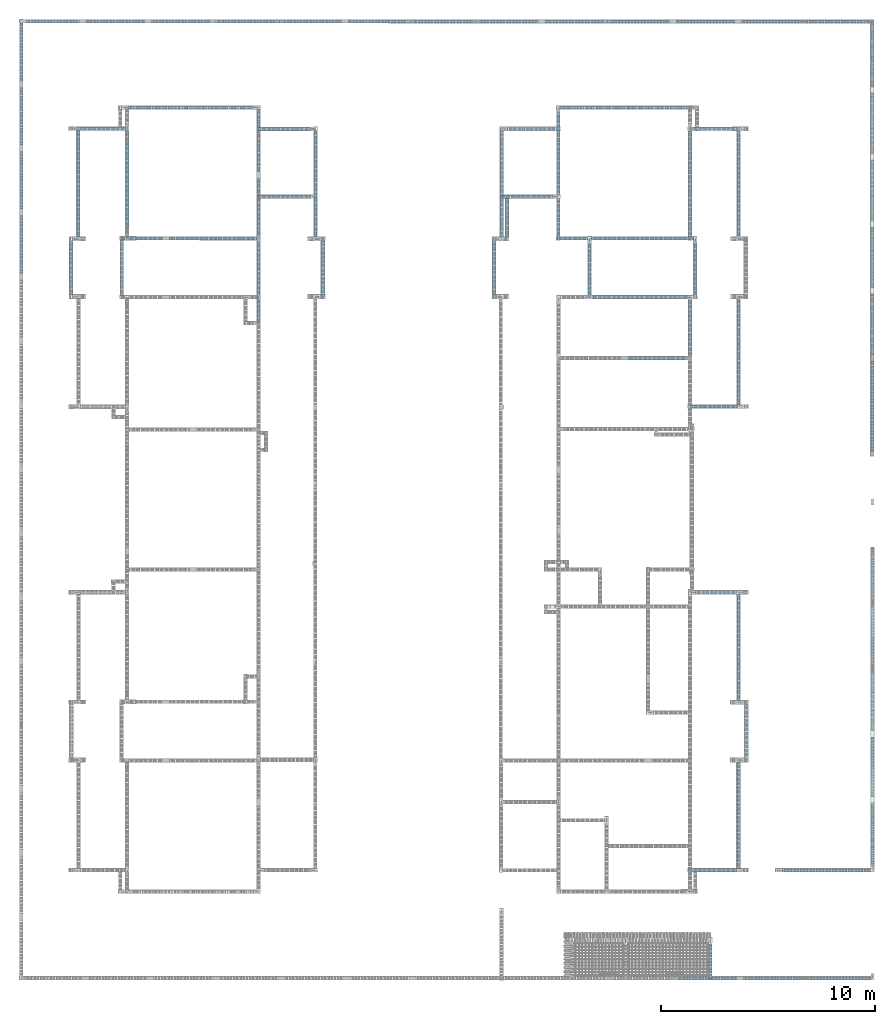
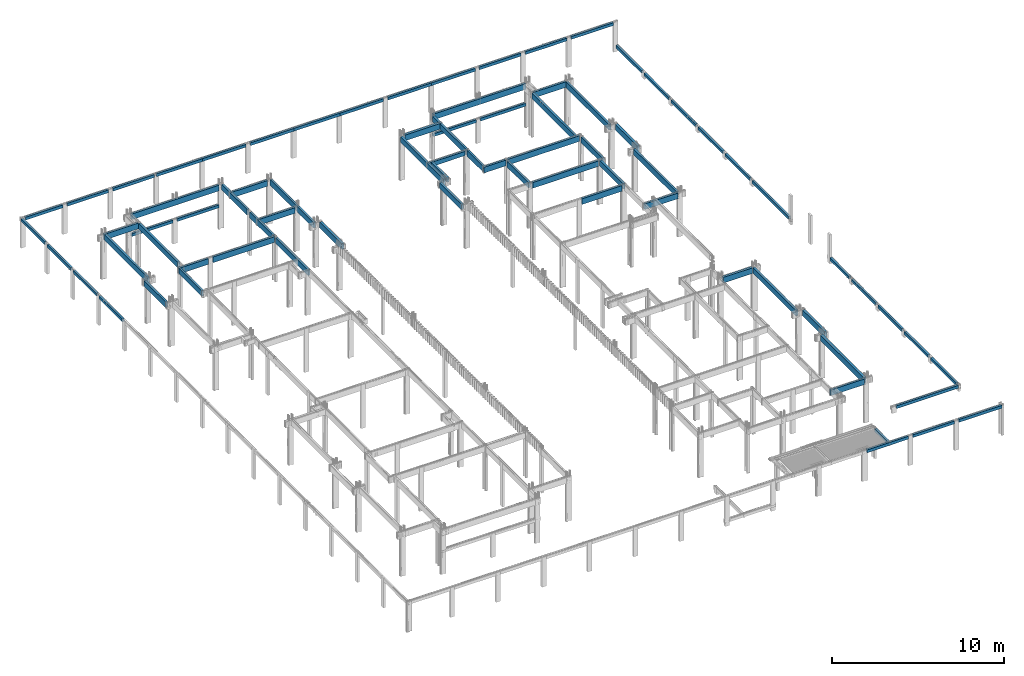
# One storey, part 4 of 236: 79 beams.
"""IFC4 building model written with IfcOpenShell, lengths in centimetres."""

from ifc_helpers import new_model, si_unit, derived_unit, frame, origin_with_axes, origin_2d_with_axis, place, context, project, spatial, rectangle, extrude, material, element, save


model = new_model("IFC4")

# Units and contexts
model_context = context("Model", 3, precision=1e-05, world=origin_with_axes(), identifier="Body")
ifc_project = project(units=[si_unit("LENGTHUNIT", "METRE", prefix="CENTI"), si_unit("VOLUMEUNIT", "CUBIC_METRE"), si_unit("AREAUNIT", "SQUARE_METRE"), si_unit("POWERUNIT", "WATT"), si_unit("LUMINOUSFLUXUNIT", "LUMEN"), si_unit("ELECTRICCURRENTUNIT", "AMPERE"), si_unit("PRESSUREUNIT", "PASCAL", prefix="KILO"), si_unit("MASSUNIT", "GRAM", prefix="KILO"), si_unit("PLANEANGLEUNIT", "RADIAN"), derived_unit("VOLUMETRICFLOWRATEUNIT", [(si_unit("LENGTHUNIT", "METRE"), 3), (si_unit("TIMEUNIT", "SECOND"), -1)])], contexts=[model_context])

# Site, building, storey
site_placement = place(None, frame((-4000.0, 0.0, 0.0), z_axis=(0.0, 0.0, 1.0), x_axis=(1.0, 0.0, 0.0)))
site = spatial("IfcSite", under=ifc_project, at=site_placement, Name="PADRÃO")
building_placement = place(site_placement, frame((0.0, 0.0, -14.0)))
building = spatial("IfcBuilding", under=site, at=building_placement, Name="CRECHE PRÉ-ESCOLA TIPO 2")
placement_1 = place(building_placement, origin_with_axes())
placement_2 = place(placement_1, frame((0.0, 0.0, 30.0), z_axis=(0.0, 0.0, 1.0), x_axis=(1.0, 0.0, 0.0)))
storey_placement = place(placement_2, frame((0.0, 0.0, 310.0), z_axis=(0.0, 0.0, 1.0), x_axis=(1.0, 0.0, 0.0)))
storey = spatial("IfcBuildingStorey", under=building, at=storey_placement, Name="TERREO", CompositionType="ELEMENT", Elevation=326.0)

# Beams
ifc_material = material(Name="Concreto")
beam_1_placement = place(storey_placement, frame((802.19, 4085.0, 0.0), z_axis=(0.0, 0.0, 1.0), x_axis=(1.0, 0.0, 0.0)))
element("IfcBeam", 1, at=beam_1_placement, inside=storey, material=ifc_material, Name="V201", context=model_context, shape_type="SolidModel", body=[
    extrude(rectangle(XDim=14.0, YDim=40.0, at=origin_2d_with_axis()), frame((-292.52, 0.0, -20.0), z_axis=(1.0, 0.0, 0.0), x_axis=(0.0, 1.0, 0.0)), (0.0, 0.0, 1.0), 585.04),
])
beam_2_placement = place(storey_placement, frame((2839.0, 4085.02, 0.0), z_axis=(0.0, 0.0, 1.0), x_axis=(1.0, 0.0, 0.0)))
element("IfcBeam", 2, at=beam_2_placement, inside=storey, material=ifc_material, Name="V202", context=model_context, shape_type="SolidModel", body=[
    extrude(rectangle(XDim=14.0, YDim=40.0, at=origin_2d_with_axis()), frame((-309.5, 0.0, -20.0), z_axis=(1.0, 0.0, 0.0), x_axis=(0.0, 1.0, 0.0)), (0.0, 0.0, 1.0), 619.0),
])
beam_3_placement = place(storey_placement, frame((381.835, 3986.0, 0.0), z_axis=(0.0, 0.0, 1.0), x_axis=(1.0, 0.0, 0.0)))
element("IfcBeam", 3, at=beam_3_placement, inside=storey, material=ifc_material, Name="V203", context=model_context, shape_type="SolidModel", body=[
    extrude(rectangle(XDim=14.0, YDim=40.0, at=origin_2d_with_axis()), frame((-114.835, 0.0, -20.0), z_axis=(1.0, 0.0, 0.0), x_axis=(0.0, 1.0, 0.0)), (0.0, 0.0, 1.0), 229.67),
])
beam_4_placement = place(storey_placement, frame((1240.28, 3985.0, 0.0), z_axis=(0.0, 0.0, 1.0), x_axis=(1.0, 0.0, 0.0)))
element("IfcBeam", 4, at=beam_4_placement, inside=storey, material=ifc_material, Name="V204", context=model_context, shape_type="SolidModel", body=[
    extrude(rectangle(XDim=14.0, YDim=40.0, at=origin_2d_with_axis()), frame((-121.56, 0.0, -20.0), z_axis=(1.0, 0.0, 0.0), x_axis=(0.0, 1.0, 0.0)), (0.0, 0.0, 1.0), 243.12),
])
beam_5_placement = place(storey_placement, frame((2405.63, 3985.0, 0.0), z_axis=(0.0, 0.0, 1.0), x_axis=(1.0, 0.0, 0.0)))
element("IfcBeam", 5, at=beam_5_placement, inside=storey, material=ifc_material, Name="V205", context=model_context, shape_type="SolidModel", body=[
    extrude(rectangle(XDim=17.0, YDim=40.0, at=origin_2d_with_axis()), frame((-123.87, 0.0, -20.0), z_axis=(1.0, 0.0, 0.0), x_axis=(0.0, 1.0, 0.0)), (0.0, 0.0, 1.0), 247.74),
])
beam_6_placement = place(storey_placement, frame((3252.75, 3985.01, 0.0), z_axis=(0.0, 0.0, 1.0), x_axis=(1.0, 0.0, 0.0)))
element("IfcBeam", 6, at=beam_6_placement, inside=storey, material=ifc_material, Name="V206", context=model_context, shape_type="SolidModel", body=[
    extrude(rectangle(XDim=14.0, YDim=40.0, at=origin_2d_with_axis()), frame((-107.25, 0.0, -20.0), z_axis=(1.0, 0.0, 0.0), x_axis=(0.0, 1.0, 0.0)), (0.0, 0.0, 1.0), 214.5),
])
beam_7_placement = place(storey_placement, frame((1240.28, 3667.57, 0.0), z_axis=(0.0, 0.0, 1.0), x_axis=(1.0, 0.0, 0.0)))
element("IfcBeam", 7, at=beam_7_placement, inside=storey, material=ifc_material, Name="V207", context=model_context, shape_type="SolidModel", body=[
    extrude(rectangle(XDim=14.0, YDim=40.0, at=origin_2d_with_axis()), frame((-121.56, 0.0, -20.0), z_axis=(1.0, 0.0, 0.0), x_axis=(0.0, 1.0, 0.0)), (0.0, 0.0, 1.0), 243.12),
])
beam_8_placement = place(storey_placement, frame((2378.63, 3667.75, 0.0), z_axis=(0.0, 0.0, 1.0), x_axis=(1.0, 0.0, 0.0)))
element("IfcBeam", 8, at=beam_8_placement, inside=storey, material=ifc_material, Name="V208", context=model_context, shape_type="SolidModel", body=[
    extrude(rectangle(XDim=14.0, YDim=30.0, at=origin_2d_with_axis()), frame((-120.87, 0.0, -15.0), z_axis=(1.0, 0.0, 0.0), x_axis=(0.0, 1.0, 0.0)), (0.0, 0.0, 1.0), 241.74),
])
beam_9_placement = place(storey_placement, frame((571.09481657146, 3472.49518343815, 0.0), z_axis=(0.0, 0.0, 1.0), x_axis=(1.0, 0.0, 0.0)))
element("IfcBeam", 9, at=beam_9_placement, inside=storey, material=ifc_material, Name="V210", context=model_context, shape_type="SolidModel", body=[
    extrude(rectangle(XDim=14.0, YDim=40.0, at=origin_2d_with_axis()), frame((-98.9051834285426, 0.00518343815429, -20.0), z_axis=(1.0, -5.2408154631e-05, 0.0), x_axis=(5.2408154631e-05, 1.0, 0.0)), (0.0, 0.0, 1.0), 197.81036712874),
])
beam_10_placement = place(storey_placement, frame((905.86, 3472.495, 0.0), z_axis=(0.0, 0.0, 1.0), x_axis=(1.0, 0.0, 0.0)))
element("IfcBeam", 10, at=beam_10_placement, inside=storey, material=ifc_material, Name="V210", context=model_context, shape_type="SolidModel", body=[
    extrude(rectangle(XDim=14.0, YDim=40.0, at=origin_2d_with_axis()), frame((-205.86, -0.005, -20.0), z_axis=(1.0, 2.42883513e-05, 0.0), x_axis=(-2.42883513e-05, 1.0, 0.0)), (0.0, 0.0, 1.0), 411.720000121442),
])
beam_11_placement = place(storey_placement, frame((2915.75, 3472.58, 0.0), z_axis=(0.0, 0.0, 1.0), x_axis=(1.0, 0.0, 0.0)))
element("IfcBeam", 11, at=beam_11_placement, inside=storey, material=ifc_material, Name="V213", context=model_context, shape_type="SolidModel", body=[
    extrude(rectangle(XDim=14.0, YDim=40.0, at=origin_2d_with_axis()), frame((-240.75, 0.0, -20.0), z_axis=(1.0, 0.0, 0.0), x_axis=(0.0, 1.0, 0.0)), (0.0, 0.0, 1.0), 481.5),
])
beam_12_placement = place(storey_placement, frame((2588.25, 3472.58, 0.0), z_axis=(0.0, 0.0, 1.0), x_axis=(1.0, 0.0, 0.0)))
element("IfcBeam", 12, at=beam_12_placement, inside=storey, material=ifc_material, Name="V213", context=model_context, shape_type="SolidModel", body=[
    extrude(rectangle(XDim=14.0, YDim=40.0, at=origin_2d_with_axis()), frame((-72.75, 0.0, -20.0), z_axis=(1.0, 0.0, 0.0), x_axis=(0.0, 1.0, 0.0)), (0.0, 0.0, 1.0), 145.5),
])
beam_13_placement = place(storey_placement, frame((2903.25, 3197.52, 0.0), z_axis=(0.0, 0.0, 1.0), x_axis=(1.0, 0.0, 0.0)))
element("IfcBeam", 13, at=beam_13_placement, inside=storey, material=ifc_material, Name="V219", context=model_context, shape_type="SolidModel", body=[
    extrude(rectangle(XDim=14.0, YDim=40.0, at=origin_2d_with_axis()), frame((-220.25, 0.0, -20.0), z_axis=(1.0, 0.0, 0.0), x_axis=(0.0, 1.0, 0.0)), (0.0, 0.0, 1.0), 440.5),
])
beam_14_placement = place(storey_placement, frame((2982.25, 2912.52, 0.0), z_axis=(0.0, 0.0, 1.0), x_axis=(1.0, 0.0, 0.0)))
element("IfcBeam", 14, at=beam_14_placement, inside=storey, material=ifc_material, Name="V222", context=model_context, shape_type="SolidModel", body=[
    extrude(rectangle(XDim=14.0, YDim=40.0, at=origin_2d_with_axis()), frame((-133.25, 0.0, -20.0), z_axis=(1.0, 0.0, 0.0), x_axis=(0.0, 1.0, 0.0)), (0.0, 0.0, 1.0), 266.5),
])
beam_15_placement = place(storey_placement, frame((3249.75, 2685.01, 0.0), z_axis=(0.0, 0.0, 1.0), x_axis=(1.0, 0.0, 0.0)))
element("IfcBeam", 15, at=beam_15_placement, inside=storey, material=ifc_material, Name="V225", context=model_context, shape_type="SolidModel", body=[
    extrude(rectangle(XDim=14.0, YDim=40.0, at=origin_2d_with_axis()), frame((-111.25, 0.0, -20.0), z_axis=(1.0, 0.0, 0.0), x_axis=(0.0, 1.0, 0.0)), (0.0, 0.0, 1.0), 222.5),
])
beam_16_placement = place(storey_placement, frame((3260.0, 1815.02, 0.0), z_axis=(0.0, 0.0, 1.0), x_axis=(1.0, 0.0, 0.0)))
element("IfcBeam", 16, at=beam_16_placement, inside=storey, material=ifc_material, Name="V237", context=model_context, shape_type="SolidModel", body=[
    extrude(rectangle(XDim=17.0, YDim=40.0, at=origin_2d_with_axis()), frame((-97.5, 0.0, -20.0), z_axis=(1.0, 0.0, 0.0), x_axis=(0.0, 1.0, 0.0)), (0.0, 0.0, 1.0), 195.0),
])
beam_17_placement = place(storey_placement, frame((3244.5, 515.01, 0.0), z_axis=(0.0, 0.0, 1.0), x_axis=(1.0, 0.0, 0.0)))
element("IfcBeam", 17, at=beam_17_placement, inside=storey, material=ifc_material, Name="V256", context=model_context, shape_type="SolidModel", body=[
    extrude(rectangle(XDim=14.0, YDim=40.0, at=origin_2d_with_axis()), frame((-113.0, 0.0, -20.0), z_axis=(1.0, 0.0, 0.0), x_axis=(0.0, 1.0, 0.0)), (0.0, 0.0, 1.0), 226.0),
])
beam_18_placement = place(storey_placement, frame((241.37, 3335.25, 0.0), z_axis=(0.0, 0.0, 1.0), x_axis=(1.0, 0.0, 0.0)))
element("IfcBeam", 18, at=beam_18_placement, inside=storey, material=ifc_material, Name="V263", context=model_context, shape_type="SolidModel", body=[
    extrude(rectangle(XDim=14.0, YDim=40.0, at=origin_2d_with_axis()), frame((0.0, -126.25, -20.0), z_axis=(0.0, 1.0, 0.0), x_axis=(-1.0, 0.0, 0.0)), (0.0, 0.0, 1.0), 252.5),
])
beam_19_placement = place(storey_placement, frame((275.01, 3728.25, 0.0), z_axis=(0.0, 0.0, 1.0), x_axis=(1.0, 0.0, 0.0)))
element("IfcBeam", 19, at=beam_19_placement, inside=storey, material=ifc_material, Name="V264", context=model_context, shape_type="SolidModel", body=[
    extrude(rectangle(XDim=14.0, YDim=40.0, at=origin_2d_with_axis()), frame((0.01, -249.75, -20.0), z_axis=(-4.0040040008e-05, 1.0, 0.0), x_axis=(-1.0, -4.0040040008e-05, 0.0)), (0.0, 0.0, 1.0), 499.5),
])
beam_20_placement = place(storey_placement, frame((479.19, 3334.99643003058, 0.0), z_axis=(0.0, 0.0, 1.0), x_axis=(1.0, 0.0, 0.0)))
element("IfcBeam", 20, at=beam_20_placement, inside=storey, material=ifc_material, Name="V271", context=model_context, shape_type="SolidModel", body=[
    extrude(rectangle(XDim=14.0, YDim=40.0, at=origin_2d_with_axis()), frame((0.0, -130.506430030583, -20.0), z_axis=(0.0, 1.0, 0.0), x_axis=(-1.0, 0.0, 0.0)), (0.0, 0.0, 1.0), 261.012860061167),
])
beam_21_placement = place(storey_placement, frame((503.675, 3750.0, 0.0), z_axis=(0.0, 0.0, 1.0), x_axis=(1.0, 0.0, 0.0)))
element("IfcBeam", 21, at=beam_21_placement, inside=storey, material=ifc_material, Name="V272", context=model_context, shape_type="SolidModel", body=[
    extrude(rectangle(XDim=14.0, YDim=40.0, at=origin_2d_with_axis()), frame((-0.015, -226.5, -20.0), z_axis=(6.6225165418e-05, 1.0, 0.0), x_axis=(-1.0, 6.6225165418e-05, 0.0)), (0.0, 0.0, 1.0), 453.0),
])
beam_22_placement = place(storey_placement, frame((1118.72, 3265.75, 0.0), z_axis=(0.0, 0.0, 1.0), x_axis=(1.0, 0.0, 0.0)))
element("IfcBeam", 22, at=beam_22_placement, inside=storey, material=ifc_material, Name="V278", context=model_context, shape_type="SolidModel", body=[
    extrude(rectangle(XDim=14.0, YDim=40.0, at=origin_2d_with_axis()), frame((0.0, -189.25, -20.0), z_axis=(0.0, 1.0, 0.0), x_axis=(-1.0, 0.0, 0.0)), (0.0, 0.0, 1.0), 378.5),
])
beam_23_placement = place(storey_placement, frame((1118.715, 3930.39, 0.0), z_axis=(0.0, 0.0, 1.0), x_axis=(1.0, 0.0, 0.0)))
element("IfcBeam", 23, at=beam_23_placement, inside=storey, material=ifc_material, Name="V280", context=model_context, shape_type="SolidModel", body=[
    extrude(rectangle(XDim=14.0, YDim=40.0, at=origin_2d_with_axis()), frame((0.005, -147.61, -20.0), z_axis=(-3.3873043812e-05, 1.0, 0.0), x_axis=(-1.0, -3.3873043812e-05, 0.0)), (0.0, 0.0, 1.0), 295.220000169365),
])
beam_24_placement = place(storey_placement, frame((1118.72, 3618.89, 0.0), z_axis=(0.0, 0.0, 1.0), x_axis=(1.0, 0.0, 0.0)))
element("IfcBeam", 24, at=beam_24_placement, inside=storey, material=ifc_material, Name="V280", context=model_context, shape_type="SolidModel", body=[
    extrude(rectangle(XDim=14.0, YDim=40.0, at=origin_2d_with_axis()), frame((0.0, -133.89, -20.0), z_axis=(0.0, 1.0, 0.0), x_axis=(-1.0, 0.0, 0.0)), (0.0, 0.0, 1.0), 267.78),
])
beam_25_placement = place(storey_placement, frame((1421.04, 3335.0282184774, 0.0), z_axis=(0.0, 0.0, 1.0), x_axis=(1.0, 0.0, 0.0)))
element("IfcBeam", 25, at=beam_25_placement, inside=storey, material=ifc_material, Name="V285", context=model_context, shape_type="SolidModel", body=[
    extrude(rectangle(XDim=17.0, YDim=40.0, at=origin_2d_with_axis()), frame((0.0, -126.508218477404, -20.0), z_axis=(0.0, 1.0, 0.0), x_axis=(-1.0, 0.0, 0.0)), (0.0, 0.0, 1.0), 253.016436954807),
])
beam_26_placement = place(storey_placement, frame((1385.85, 3573.01, 0.0), z_axis=(0.0, 0.0, 1.0), x_axis=(1.0, 0.0, 0.0)))
element("IfcBeam", 26, at=beam_26_placement, inside=storey, material=ifc_material, Name="V286", context=model_context, shape_type="SolidModel", body=[
    extrude(rectangle(XDim=14.0, YDim=40.0, at=origin_2d_with_axis()), frame((0.0, -94.49, -20.0), z_axis=(0.0, 1.0, 0.0), x_axis=(-1.0, 0.0, 0.0)), (0.0, 0.0, 1.0), 188.98),
])
beam_27_placement = place(storey_placement, frame((1385.8425, 3822.75, 0.0), z_axis=(0.0, 0.0, 1.0), x_axis=(1.0, 0.0, 0.0)))
element("IfcBeam", 27, at=beam_27_placement, inside=storey, material=ifc_material, Name="V286", context=model_context, shape_type="SolidModel", body=[
    extrude(rectangle(XDim=14.0, YDim=40.0, at=origin_2d_with_axis()), frame((0.0025, -155.25, -20.0), z_axis=(-1.6103059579e-05, 1.0, 0.0), x_axis=(-1.0, -1.6103059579e-05, 0.0)), (0.0, 0.0, 1.0), 310.5),
])
beam_28_placement = place(storey_placement, frame((2221.53, 3335.02, 0.0), z_axis=(0.0, 0.0, 1.0), x_axis=(1.0, 0.0, 0.0)))
element("IfcBeam", 28, at=beam_28_placement, inside=storey, material=ifc_material, Name="V291", context=model_context, shape_type="SolidModel", body=[
    extrude(rectangle(XDim=14.0, YDim=40.0, at=origin_2d_with_axis()), frame((0.0, -126.5, -20.0), z_axis=(0.0, 1.0, 0.0), x_axis=(1.0, 0.0, 0.0)), (0.0, 0.0, 1.0), 253.0),
])
beam_29_placement = place(storey_placement, frame((2282.5, 3569.635, 0.0), z_axis=(0.0, 0.0, 1.0), x_axis=(1.0, 0.0, 0.0)))
element("IfcBeam", 29, at=beam_29_placement, inside=storey, material=ifc_material, Name="V292", context=model_context, shape_type="SolidModel", body=[
    extrude(rectangle(XDim=14.0, YDim=30.0, at=origin_2d_with_axis()), frame((0.0, -91.115, -15.0), z_axis=(0.0, 1.0, 0.0), x_axis=(1.0, 0.0, 0.0)), (0.0, 0.0, 1.0), 182.23),
])
beam_30_placement = place(storey_placement, frame((2257.76, 3727.51, 0.0), z_axis=(0.0, 0.0, 1.0), x_axis=(1.0, 0.0, 0.0)))
element("IfcBeam", 30, at=beam_30_placement, inside=storey, material=ifc_material, Name="V293", context=model_context, shape_type="SolidModel", body=[
    extrude(rectangle(XDim=14.0, YDim=40.0, at=origin_2d_with_axis()), frame((0.0, -248.99, -20.0), z_axis=(0.0, 1.0, 0.0), x_axis=(1.0, 0.0, 0.0)), (0.0, 0.0, 1.0), 497.98),
])
beam_31_placement = place(storey_placement, frame((2522.5, 3868.385, 0.0), z_axis=(0.0, 0.0, 1.0), x_axis=(1.0, 0.0, 0.0)))
element("IfcBeam", 31, at=beam_31_placement, inside=storey, material=ifc_material, Name="V299", context=model_context, shape_type="SolidModel", body=[
    extrude(rectangle(XDim=14.0, YDim=40.0, at=origin_2d_with_axis()), frame((0.0, -193.635, -20.0), z_axis=(0.0, 1.0, 0.0), x_axis=(1.0, 0.0, 0.0)), (0.0, 0.0, 1.0), 387.27),
])
beam_32_placement = place(storey_placement, frame((2522.5, 3570.165, 0.0), z_axis=(0.0, 0.0, 1.0), x_axis=(1.0, 0.0, 0.0)))
element("IfcBeam", 32, at=beam_32_placement, inside=storey, material=ifc_material, Name="V299", context=model_context, shape_type="SolidModel", body=[
    extrude(rectangle(XDim=14.0, YDim=40.0, at=origin_2d_with_axis()), frame((0.0, -90.585, -20.0), z_axis=(0.0, 1.0, 0.0), x_axis=(1.0, 0.0, 0.0)), (0.0, 0.0, 1.0), 181.17),
])
beam_33_placement = place(storey_placement, frame((2668.0, 3327.05, 0.0), z_axis=(0.0, 0.0, 1.0), x_axis=(1.0, 0.0, 0.0)))
element("IfcBeam", 33, at=beam_33_placement, inside=storey, material=ifc_material, Name="V300", context=model_context, shape_type="SolidModel", body=[
    extrude(rectangle(XDim=14.0, YDim=40.0, at=origin_2d_with_axis()), frame((0.0, -122.53, -20.0), z_axis=(0.0, 1.0, 0.0), x_axis=(1.0, 0.0, 0.0)), (0.0, 0.0, 1.0), 245.06),
])
beam_34_placement = place(storey_placement, frame((3138.5, 3055.02, 0.0), z_axis=(0.0, 0.0, 1.0), x_axis=(1.0, 0.0, 0.0)))
element("IfcBeam", 34, at=beam_34_placement, inside=storey, material=ifc_material, Name="V308", context=model_context, shape_type="SolidModel", body=[
    extrude(rectangle(XDim=14.0, YDim=40.0, at=origin_2d_with_axis()), frame((0.0, -135.5, -20.0), z_axis=(0.0, 1.0, 0.0), x_axis=(1.0, 0.0, 0.0)), (0.0, 0.0, 1.0), 271.0),
])
beam_35_placement = place(storey_placement, frame((3163.5, 3327.05, 0.0), z_axis=(0.0, 0.0, 1.0), x_axis=(1.0, 0.0, 0.0)))
element("IfcBeam", 35, at=beam_35_placement, inside=storey, material=ifc_material, Name="V309", context=model_context, shape_type="SolidModel", body=[
    extrude(rectangle(XDim=14.0, YDim=40.0, at=origin_2d_with_axis()), frame((0.0, -122.53, -20.0), z_axis=(0.0, 1.0, 0.0), x_axis=(1.0, 0.0, 0.0)), (0.0, 0.0, 1.0), 245.06),
])
beam_36_placement = place(storey_placement, frame((3138.5, 3724.545, 0.0), z_axis=(0.0, 0.0, 1.0), x_axis=(1.0, 0.0, 0.0)))
element("IfcBeam", 36, at=beam_36_placement, inside=storey, material=ifc_material, Name="V310", context=model_context, shape_type="SolidModel", body=[
    extrude(rectangle(XDim=14.0, YDim=40.0, at=origin_2d_with_axis()), frame((0.0, -251.965, -20.0), z_axis=(0.0, 1.0, 0.0), x_axis=(1.0, 0.0, 0.0)), (0.0, 0.0, 1.0), 503.93),
])
beam_37_placement = place(storey_placement, frame((3366.0, 771.795, 0.0), z_axis=(0.0, 0.0, 1.0), x_axis=(1.0, 0.0, 0.0)))
element("IfcBeam", 37, at=beam_37_placement, inside=storey, material=ifc_material, Name="V312", context=model_context, shape_type="SolidModel", body=[
    extrude(rectangle(XDim=17.0, YDim=40.0, at=origin_2d_with_axis()), frame((0.0, -249.785, -20.0), z_axis=(0.0, 1.0, 0.0), x_axis=(1.0, 0.0, 0.0)), (0.0, 0.0, 1.0), 499.57),
])
beam_38_placement = place(storey_placement, frame((3402.48, 1165.09, 0.0), z_axis=(0.0, 0.0, 1.0), x_axis=(1.0, 0.0, 0.0)))
element("IfcBeam", 38, at=beam_38_placement, inside=storey, material=ifc_material, Name="V313", context=model_context, shape_type="SolidModel", body=[
    extrude(rectangle(XDim=17.0, YDim=40.0, at=origin_2d_with_axis()), frame((0.0, -126.5, -20.0), z_axis=(0.0, 1.0, 0.0), x_axis=(1.0, 0.0, 0.0)), (0.0, 0.0, 1.0), 253.0),
])
beam_39_placement = place(storey_placement, frame((3366.0, 1557.555, 0.0), z_axis=(0.0, 0.0, 1.0), x_axis=(1.0, 0.0, 0.0)))
element("IfcBeam", 39, at=beam_39_placement, inside=storey, material=ifc_material, Name="V314", context=model_context, shape_type="SolidModel", body=[
    extrude(rectangle(XDim=14.0, YDim=40.0, at=origin_2d_with_axis()), frame((0.0, -248.965, -20.0), z_axis=(0.0, 1.0, 0.0), x_axis=(1.0, 0.0, 0.0)), (0.0, 0.0, 1.0), 497.93),
])
beam_40_placement = place(storey_placement, frame((3366.0, 2941.77, 0.0), z_axis=(0.0, 0.0, 1.0), x_axis=(1.0, 0.0, 0.0)))
element("IfcBeam", 40, at=beam_40_placement, inside=storey, material=ifc_material, Name="V315", context=model_context, shape_type="SolidModel", body=[
    extrude(rectangle(XDim=14.0, YDim=40.0, at=origin_2d_with_axis()), frame((0.0, -249.75, -20.0), z_axis=(0.0, 1.0, 0.0), x_axis=(1.0, 0.0, 0.0)), (0.0, 0.0, 1.0), 499.5),
])
beam_41_placement = place(storey_placement, frame((3400.98, 3335.08184835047, 0.0), z_axis=(0.0, 0.0, 1.0), x_axis=(1.0, 0.0, 0.0)))
element("IfcBeam", 41, at=beam_41_placement, inside=storey, material=ifc_material, Name="V316", context=model_context, shape_type="SolidModel", body=[
    extrude(rectangle(XDim=17.0, YDim=40.0, at=origin_2d_with_axis()), frame((0.0, -126.508151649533, -20.0), z_axis=(0.0, 1.0, 0.0), x_axis=(1.0, 0.0, 0.0)), (0.0, 0.0, 1.0), 253.016303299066),
])
beam_42_placement = place(storey_placement, frame((3366.0, 3728.265, 0.0), z_axis=(0.0, 0.0, 1.0), x_axis=(1.0, 0.0, 0.0)))
element("IfcBeam", 42, at=beam_42_placement, inside=storey, material=ifc_material, Name="V317", context=model_context, shape_type="SolidModel", body=[
    extrude(rectangle(XDim=14.0, YDim=40.0, at=origin_2d_with_axis()), frame((0.0, -249.745, -20.0), z_axis=(0.0, 1.0, 0.0), x_axis=(1.0, 0.0, 0.0)), (0.0, 0.0, 1.0), 499.49),
])
beam_43_placement = place(storey_placement, frame((1062.49998645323, 4488.375, -100.0), z_axis=(0.0, 0.0, 1.0), x_axis=(1.0, 0.0, 0.0)))
element("IfcBeam", 43, at=beam_43_placement, inside=storey, material=ifc_material, Name="V318", context=model_context, shape_type="SolidModel", body=[
    extrude(rectangle(XDim=14.0, YDim=20.0, at=origin_2d_with_axis()), frame((-153.5, 0.016624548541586, -10.0), z_axis=(1.0, -0.000108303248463, 0.0), x_axis=(0.000108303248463, 1.0, 0.0)), (0.0, 0.0, 1.0), 307.0),
])
beam_44_placement = place(storey_placement, frame((448.5, 4488.455, -100.0), z_axis=(0.0, 0.0, 1.0), x_axis=(1.0, 0.0, 0.0)))
element("IfcBeam", 44, at=beam_44_placement, inside=storey, material=ifc_material, Name="V318", context=model_context, shape_type="SolidModel", body=[
    extrude(rectangle(XDim=14.0, YDim=20.0, at=origin_2d_with_axis()), frame((-138.5, 0.015, -10.0), z_axis=(1.0, -0.000108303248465, 0.0), x_axis=(0.000108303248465, 1.0, 0.0)), (0.0, 0.0, 1.0), 277.0),
])
beam_45_placement = place(storey_placement, frame((2897.0, 4488.13581227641, -100.0), z_axis=(0.0, 0.0, 1.0), x_axis=(1.0, 0.0, 0.0)))
element("IfcBeam", 45, at=beam_45_placement, inside=storey, material=ifc_material, Name="V318", context=model_context, shape_type="SolidModel", body=[
    extrude(rectangle(XDim=14.0, YDim=20.0, at=origin_2d_with_axis()), frame((-146.000018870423, 0.015812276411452, -10.0), z_axis=(1.0, -0.000108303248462, 0.0), x_axis=(0.000108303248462, 1.0, 0.0)), (0.0, 0.0, 1.0), 292.000039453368),
])
beam_46_placement = place(storey_placement, frame((755.5, 4488.415, -100.0), z_axis=(0.0, 0.0, 1.0), x_axis=(1.0, 0.0, 0.0)))
element("IfcBeam", 46, at=beam_46_placement, inside=storey, material=ifc_material, Name="V318", context=model_context, shape_type="SolidModel", body=[
    extrude(rectangle(XDim=14.0, YDim=20.0, at=origin_2d_with_axis()), frame((-138.5, 0.015, -10.0), z_axis=(1.0, -0.000108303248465, 0.0), x_axis=(0.000108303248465, 1.0, 0.0)), (0.0, 0.0, 1.0), 277.0),
])
beam_47_placement = place(storey_placement, frame((3211.5, 4488.1, -100.0), z_axis=(0.0, 0.0, 1.0), x_axis=(1.0, 0.0, 0.0)))
element("IfcBeam", 47, at=beam_47_placement, inside=storey, material=ifc_material, Name="V318", context=model_context, shape_type="SolidModel", body=[
    extrude(rectangle(XDim=14.0, YDim=20.0, at=origin_2d_with_axis()), frame((-138.5, 0.02, -10.0), z_axis=(1.0, -0.000144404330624, 0.0), x_axis=(0.000144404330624, 1.0, 0.0)), (0.0, 0.0, 1.0), 277.0),
])
beam_48_placement = place(storey_placement, frame((3828.0, 4488.02, -100.0), z_axis=(0.0, 0.0, 1.0), x_axis=(1.0, 0.0, 0.0)))
element("IfcBeam", 48, at=beam_48_placement, inside=storey, material=ifc_material, Name="V318", context=model_context, shape_type="SolidModel", body=[
    extrude(rectangle(XDim=14.0, YDim=20.0, at=origin_2d_with_axis()), frame((-141.0, 0.02, -10.0), z_axis=(1.0, -0.000141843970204, 0.0), x_axis=(0.000141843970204, 1.0, 0.0)), (0.0, 0.0, 1.0), 282.0),
])
beam_49_placement = place(storey_placement, frame((1362.0, 4488.33581227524, -100.0), z_axis=(0.0, 0.0, 1.0), x_axis=(1.0, 0.0, 0.0)))
element("IfcBeam", 49, at=beam_49_placement, inside=storey, material=ifc_material, Name="V318", context=model_context, shape_type="SolidModel", body=[
    extrude(rectangle(XDim=14.0, YDim=20.0, at=origin_2d_with_axis()), frame((-146.0, 0.015812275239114, -10.0), z_axis=(1.0, -0.000108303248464, 0.0), x_axis=(0.000108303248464, 1.0, 0.0)), (0.0, 0.0, 1.0), 292.000017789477),
])
beam_50_placement = place(storey_placement, frame((1982.99497337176, 4488.255, -100.0), z_axis=(0.0, 0.0, 1.0), x_axis=(1.0, 0.0, 0.0)))
element("IfcBeam", 50, at=beam_50_placement, inside=storey, material=ifc_material, Name="V318", context=model_context, shape_type="SolidModel", body=[
    extrude(rectangle(XDim=14.0, YDim=20.0, at=origin_2d_with_axis()), frame((-152.994998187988, 0.016630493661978, -10.0), z_axis=(1.0, -0.000108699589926, 0.0), x_axis=(0.000108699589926, 1.0, 0.0)), (0.0, 0.0, 1.0), 305.989998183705),
])
beam_51_placement = place(storey_placement, frame((3518.5, 4488.06, -100.0), z_axis=(0.0, 0.0, 1.0), x_axis=(1.0, 0.0, 0.0)))
element("IfcBeam", 51, at=beam_51_placement, inside=storey, material=ifc_material, Name="V318", context=model_context, shape_type="SolidModel", body=[
    extrude(rectangle(XDim=14.0, YDim=20.0, at=origin_2d_with_axis()), frame((-138.5, 0.02, -10.0), z_axis=(1.0, -0.000144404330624, 0.0), x_axis=(0.000144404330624, 1.0, 0.0)), (0.0, 0.0, 1.0), 277.0),
])
beam_52_placement = place(storey_placement, frame((1684.0, 4488.29418772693, -100.0), z_axis=(0.0, 0.0, 1.0), x_axis=(1.0, 0.0, 0.0)))
element("IfcBeam", 52, at=beam_52_placement, inside=storey, material=ifc_material, Name="V318", context=model_context, shape_type="SolidModel", body=[
    extrude(rectangle(XDim=14.0, YDim=20.0, at=origin_2d_with_axis()), frame((-146.0, 0.015812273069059, -10.0), z_axis=(1.0, -0.000108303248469, 0.0), x_axis=(0.000108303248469, 1.0, 0.0)), (0.0, 0.0, 1.0), 292.0),
])
beam_53_placement = place(storey_placement, frame((2282.49498552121, 4488.21580932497, -100.0), z_axis=(0.0, 0.0, 1.0), x_axis=(1.0, 0.0, 0.0)))
element("IfcBeam", 53, at=beam_53_placement, inside=storey, material=ifc_material, Name="V318", context=model_context, shape_type="SolidModel", body=[
    extrude(rectangle(XDim=14.0, YDim=20.0, at=origin_2d_with_axis()), frame((-146.505014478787, 0.015809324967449, -10.0), z_axis=(1.0, -0.000107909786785, 0.0), x_axis=(0.000107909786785, 1.0, 0.0)), (0.0, 0.0, 1.0), 293.010030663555),
])
beam_54_placement = place(storey_placement, frame((155.75, 4488.485, -100.0), z_axis=(0.0, 0.0, 1.0), x_axis=(1.0, 0.0, 0.0)))
element("IfcBeam", 54, at=beam_54_placement, inside=storey, material=ifc_material, Name="V318", context=model_context, shape_type="SolidModel", body=[
    extrude(rectangle(XDim=14.0, YDim=20.0, at=origin_2d_with_axis()), frame((-124.25, 0.015, -10.0), z_axis=(1.0, -0.000120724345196, 0.0), x_axis=(0.000120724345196, 1.0, 0.0)), (0.0, 0.0, 1.0), 248.500001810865),
])
beam_55_placement = place(storey_placement, frame((2605.0, 4488.17418772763, -100.0), z_axis=(0.0, 0.0, 1.0), x_axis=(1.0, 0.0, 0.0)))
element("IfcBeam", 55, at=beam_55_placement, inside=storey, material=ifc_material, Name="V318", context=model_context, shape_type="SolidModel", body=[
    extrude(rectangle(XDim=14.0, YDim=20.0, at=origin_2d_with_axis()), frame((-146.0, 0.01581227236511, -10.0), z_axis=(1.0, -0.00010830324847, 0.0), x_axis=(0.00010830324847, 1.0, 0.0)), (0.0, 0.0, 1.0), 292.0),
])
beam_56_placement = place(storey_placement, frame((647.26, 4085.0, -140.0), z_axis=(0.0, 0.0, 1.0), x_axis=(1.0, 0.0, 0.0)))
element("IfcBeam", 56, at=beam_56_placement, inside=storey, material=ifc_material, Name="V319", context=model_context, shape_type="SolidModel", body=[
    extrude(rectangle(XDim=14.0, YDim=20.0, at=origin_2d_with_axis()), frame((-137.59, 0.0, -10.0), z_axis=(1.0, 0.0, 0.0), x_axis=(0.0, 1.0, 0.0)), (0.0, 0.0, 1.0), 275.18),
])
beam_57_placement = place(storey_placement, frame((954.78, 4085.0, -140.0), z_axis=(0.0, 0.0, 1.0), x_axis=(1.0, 0.0, 0.0)))
element("IfcBeam", 57, at=beam_57_placement, inside=storey, material=ifc_material, Name="V319", context=model_context, shape_type="SolidModel", body=[
    extrude(rectangle(XDim=14.0, YDim=20.0, at=origin_2d_with_axis()), frame((-139.93, 0.0, -10.0), z_axis=(1.0, 0.0, 0.0), x_axis=(0.0, 1.0, 0.0)), (0.0, 0.0, 1.0), 279.86),
])
beam_58_placement = place(storey_placement, frame((2673.24, 4085.02, -140.0), z_axis=(0.0, 0.0, 1.0), x_axis=(1.0, 0.0, 0.0)))
element("IfcBeam", 58, at=beam_58_placement, inside=storey, material=ifc_material, Name="V320", context=model_context, shape_type="SolidModel", body=[
    extrude(rectangle(XDim=14.0, YDim=20.0, at=origin_2d_with_axis()), frame((-143.74, 0.0, -10.0), z_axis=(1.0, 0.0, 0.0), x_axis=(0.0, 1.0, 0.0)), (0.0, 0.0, 1.0), 287.48),
])
beam_59_placement = place(storey_placement, frame((2997.74, 4085.02, -140.0), z_axis=(0.0, 0.0, 1.0), x_axis=(1.0, 0.0, 0.0)))
element("IfcBeam", 59, at=beam_59_placement, inside=storey, material=ifc_material, Name="V320", context=model_context, shape_type="SolidModel", body=[
    extrude(rectangle(XDim=14.0, YDim=20.0, at=origin_2d_with_axis()), frame((-150.76, 0.0, -10.0), z_axis=(1.0, 0.0, 0.0), x_axis=(0.0, 1.0, 0.0)), (0.0, 0.0, 1.0), 301.52),
])
for number, where, z_axis, x_axis, name in (
    (60, (3221.0, 9.0, -100.0), (0.0, 0.0, 1.0), (1.0, 0.0, 0.0), "V323"),
    (61, (3528.0, 9.0, -100.0), (0.0, 0.0, 1.0), (1.0, 0.0, 0.0), "V323"),
):
    element("IfcBeam", number, at=place(storey_placement, frame(where, z_axis=z_axis, x_axis=x_axis)), inside=storey, material=ifc_material, Name=name, context=model_context, shape_type="SolidModel", body=[
        extrude(rectangle(XDim=14.0, YDim=20.0, at=origin_2d_with_axis()), frame((-138.5, 0.0, -10.0), z_axis=(1.0, 0.0, 0.0), x_axis=(0.0, 1.0, 0.0)), (0.0, 0.0, 1.0), 277.0),
    ])
beam_60_placement = place(storey_placement, frame((3840.75, 9.0, -100.0), z_axis=(0.0, 0.0, 1.0), x_axis=(1.0, 0.0, 0.0)))
element("IfcBeam", 62, at=beam_60_placement, inside=storey, material=ifc_material, Name="V323", context=model_context, shape_type="SolidModel", body=[
    extrude(rectangle(XDim=14.0, YDim=20.0, at=origin_2d_with_axis()), frame((-144.25, 0.0, -10.0), z_axis=(1.0, 0.0, 0.0), x_axis=(0.0, 1.0, 0.0)), (0.0, 0.0, 1.0), 288.5),
])
beam_61_placement = place(storey_placement, frame((8.5, 4345.5, -100.0), z_axis=(0.0, 0.0, 1.0), x_axis=(1.0, 0.0, 0.0)))
element("IfcBeam", 63, at=beam_61_placement, inside=storey, material=ifc_material, Name="V324", context=model_context, shape_type="SolidModel", body=[
    extrude(rectangle(XDim=14.0, YDim=20.0, at=origin_2d_with_axis()), frame((0.0, -136.0, -10.0), z_axis=(0.0, 1.0, 0.0), x_axis=(-1.0, 0.0, 0.0)), (0.0, 0.0, 1.0), 272.0),
])
for number, where, z_axis, x_axis, name in (
    (64, (8.5, 3744.5, -100.0), (0.0, 0.0, 1.0), (1.0, 0.0, 0.0), "V324"),
    (65, (8.5, 4044.5, -100.0), (0.0, 0.0, 1.0), (1.0, 0.0, 0.0), "V324"),
    (66, (8.5, 3444.5, -100.0), (0.0, 0.0, 1.0), (1.0, 0.0, 0.0), "V324"),
):
    element("IfcBeam", number, at=place(storey_placement, frame(where, z_axis=z_axis, x_axis=x_axis)), inside=storey, material=ifc_material, Name=name, context=model_context, shape_type="SolidModel", body=[
        extrude(rectangle(XDim=14.0, YDim=20.0, at=origin_2d_with_axis()), frame((0.0, -135.0, -10.0), z_axis=(0.0, 1.0, 0.0), x_axis=(-1.0, 0.0, 0.0)), (0.0, 0.0, 1.0), 270.0),
    ])
beam_62_placement = place(storey_placement, frame((3233.99, 88.25, -100.0), z_axis=(0.0, 0.0, 1.0), x_axis=(1.0, 0.0, 0.0)))
element("IfcBeam", 67, at=beam_62_placement, inside=storey, material=ifc_material, Name="V327", context=model_context, shape_type="SolidModel", body=[
    extrude(rectangle(XDim=14.0, YDim=20.0, at=origin_2d_with_axis()), frame((0.0, -79.25, -10.0), z_axis=(0.0, 1.0, 0.0), x_axis=(1.0, 0.0, 0.0)), (0.0, 0.0, 1.0), 158.5),
])
beam_63_placement = place(storey_placement, frame((3778.5, 514.52, -265.0), z_axis=(0.0, 0.0, 1.0), x_axis=(1.0, 0.0, 0.0)))
element("IfcBeam", 68, at=beam_63_placement, inside=storey, material=ifc_material, Name="V328", context=model_context, shape_type="SolidModel", body=[
    extrude(rectangle(XDim=14.0, YDim=20.0, at=origin_2d_with_axis()), frame((-207.5, 0.0, -10.0), z_axis=(1.0, 0.0, 0.0), x_axis=(0.0, 1.0, 0.0)), (0.0, 0.0, 1.0), 415.0),
])
beam_64_placement = place(storey_placement, frame((3993.0, 1889.61, -265.0), z_axis=(0.0, 0.0, 1.0), x_axis=(1.0, 0.0, 0.0)))
element("IfcBeam", 69, at=beam_64_placement, inside=storey, material=ifc_material, Name="V331", context=model_context, shape_type="SolidModel", body=[
    extrude(rectangle(XDim=14.0, YDim=20.0, at=origin_2d_with_axis()), frame((0.0, -110.5, -10.0), z_axis=(0.0, 1.0, 0.0), x_axis=(1.0, 0.0, 0.0)), (0.0, 0.0, 1.0), 221.0),
])
for number, where, z_axis, x_axis, name in (
    (70, (3993.0, 1305.11, -265.0), (0.0, 0.0, 1.0), (1.0, 0.0, 0.0), "V331"),
    (71, (3993.0, 1611.11, -265.0), (0.0, 0.0, 1.0), (1.0, 0.0, 0.0), "V331"),
):
    element("IfcBeam", number, at=place(storey_placement, frame(where, z_axis=z_axis, x_axis=x_axis)), inside=storey, material=ifc_material, Name=name, context=model_context, shape_type="SolidModel", body=[
        extrude(rectangle(XDim=14.0, YDim=20.0, at=origin_2d_with_axis()), frame((0.0, -138.0, -10.0), z_axis=(0.0, 1.0, 0.0), x_axis=(1.0, 0.0, 0.0)), (0.0, 0.0, 1.0), 276.0),
    ])
beam_65_placement = place(storey_placement, frame((3993.0, 684.31, -265.0), z_axis=(0.0, 0.0, 1.0), x_axis=(1.0, 0.0, 0.0)))
element("IfcBeam", 72, at=beam_65_placement, inside=storey, material=ifc_material, Name="V331", context=model_context, shape_type="SolidModel", body=[
    extrude(rectangle(XDim=14.0, YDim=20.0, at=origin_2d_with_axis()), frame((0.0, -146.8, -10.0), z_axis=(0.0, 1.0, 0.0), x_axis=(1.0, 0.0, 0.0)), (0.0, 0.0, 1.0), 293.6),
])
beam_66_placement = place(storey_placement, frame((3993.0, 999.11, -265.0), z_axis=(0.0, 0.0, 1.0), x_axis=(1.0, 0.0, 0.0)))
element("IfcBeam", 73, at=beam_66_placement, inside=storey, material=ifc_material, Name="V331", context=model_context, shape_type="SolidModel", body=[
    extrude(rectangle(XDim=14.0, YDim=20.0, at=origin_2d_with_axis()), frame((0.0, -138.0, -10.0), z_axis=(0.0, 1.0, 0.0), x_axis=(1.0, 0.0, 0.0)), (0.0, 0.0, 1.0), 276.0),
])
beam_67_placement = place(storey_placement, frame((3992.0, 4332.25, -265.0), z_axis=(0.0, 0.0, 1.0), x_axis=(1.0, 0.0, 0.0)))
element("IfcBeam", 74, at=beam_67_placement, inside=storey, material=ifc_material, Name="V332", context=model_context, shape_type="SolidModel", body=[
    extrude(rectangle(XDim=14.0, YDim=20.0, at=origin_2d_with_axis()), frame((0.0, -148.75, -10.0), z_axis=(0.0, 1.0, 0.0), x_axis=(1.0, 0.0, 0.0)), (0.0, 0.0, 1.0), 297.5),
])
for number, where, z_axis, x_axis, name in (
    (75, (3992.0, 3698.25, -265.0), (0.0, 0.0, 1.0), (1.0, 0.0, 0.0), "V332"),
    (76, (3992.0, 3384.75, -265.0), (0.0, 0.0, 1.0), (1.0, 0.0, 0.0), "V332"),
    (77, (3992.0, 3071.25, -265.0), (0.0, 0.0, 1.0), (1.0, 0.0, 0.0), "V332"),
):
    element("IfcBeam", number, at=place(storey_placement, frame(where, z_axis=z_axis, x_axis=x_axis)), inside=storey, material=ifc_material, Name=name, context=model_context, shape_type="SolidModel", body=[
        extrude(rectangle(XDim=14.0, YDim=20.0, at=origin_2d_with_axis()), frame((0.0, -141.75, -10.0), z_axis=(0.0, 1.0, 0.0), x_axis=(1.0, 0.0, 0.0)), (0.0, 0.0, 1.0), 283.5),
    ])
beam_68_placement = place(storey_placement, frame((3992.0, 2688.385, -265.0), z_axis=(0.0, 0.0, 1.0), x_axis=(1.0, 0.0, 0.0)))
element("IfcBeam", 78, at=beam_68_placement, inside=storey, material=ifc_material, Name="V332", context=model_context, shape_type="SolidModel", body=[
    extrude(rectangle(XDim=14.0, YDim=20.0, at=origin_2d_with_axis()), frame((0.0, -211.115, -10.0), z_axis=(0.0, 1.0, 0.0), x_axis=(1.0, 0.0, 0.0)), (0.0, 0.0, 1.0), 422.23),
])
beam_69_placement = place(storey_placement, frame((3992.0, 4011.75, -265.0), z_axis=(0.0, 0.0, 1.0), x_axis=(1.0, 0.0, 0.0)))
element("IfcBeam", 79, at=beam_69_placement, inside=storey, material=ifc_material, Name="V332", context=model_context, shape_type="SolidModel", body=[
    extrude(rectangle(XDim=14.0, YDim=20.0, at=origin_2d_with_axis()), frame((0.0, -141.75, -10.0), z_axis=(0.0, 1.0, 0.0), x_axis=(1.0, 0.0, 0.0)), (0.0, 0.0, 1.0), 283.5),
])

save(model, "model.ifc")
